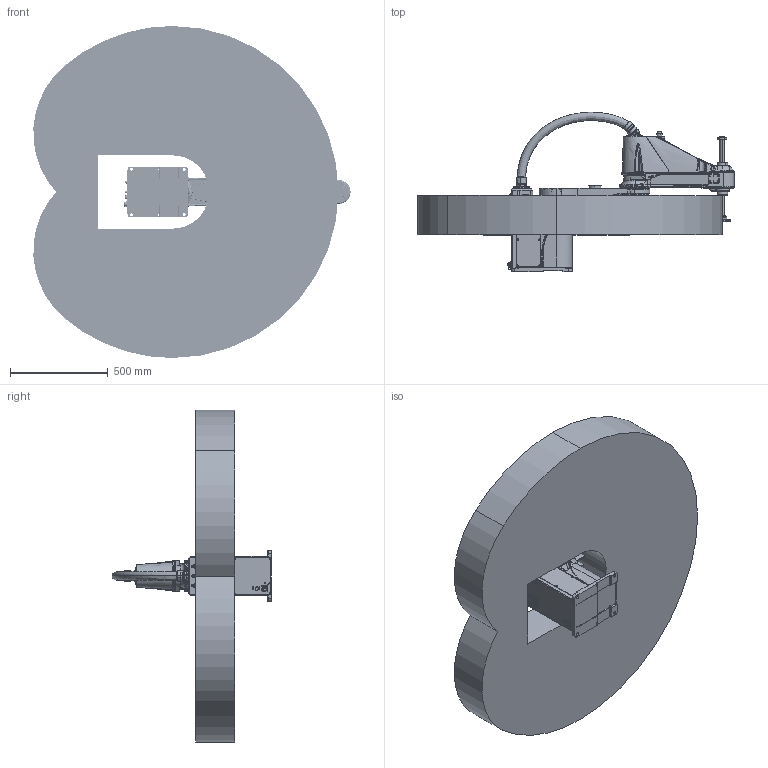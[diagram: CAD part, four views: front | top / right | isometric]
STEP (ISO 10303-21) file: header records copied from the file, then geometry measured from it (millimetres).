
FILE_DESCRIPTION (( 'STEP AP203' ), '1' );
FILE_NAME ('AH20-0850-0204-2000-V1.0.0.STEP', '2022-06-02T07:26:51', ( '' ), ( '' ), 'SwSTEP 2.0', 'SolidWorks 2017', '' );
FILE_SCHEMA (( 'CONFIG_CONTROL_DESIGN' ));
Products named in the file (7): AH20-0850-0204-2000-T4-V1.0.0; AH20-0850-0204-2000-T5-V1.0.0; AH20-0850-0204-2000-T6-V1.0.0; AH20-0850-0204-2000-V1.0.0; AH20-0850-0204-2000-T1-V1.0.0; AH20-0850-0204-2000-T2-V1.0.0; AH20-0850-0204-2000-T3-V1.0.0
Assembly tree (6 placements, depth 2):
  AH20-0850-0204-2000-V1.0.0
    AH20-0850-0204-2000-T1-V1.0.0
    AH20-0850-0204-2000-T2-V1.0.0
    AH20-0850-0204-2000-T3-V1.0.0
    AH20-0850-0204-2000-T4-V1.0.0
    AH20-0850-0204-2000-T5-V1.0.0
    AH20-0850-0204-2000-T6-V1.0.0
Bounding box: 1623.8 x 817.94 x 1700 mm (x, y, z)
Volume: 407383481.7 mm3; surface area: 7261166.2 mm2
Topology: 13 solids, 91 shells, 6670 faces, 17356 edges, 11072 vertices
Faces by surface type: plane 2684, cylinder 1625, bspline 1116, cone 840, torus 322, sphere 83
Entity records: 302450 total; most frequent: CARTESIAN_POINT 147502, ORIENTED_EDGE 33631, DIRECTION 29133, EDGE_CURVE 17172, VERTEX_POINT 11050, AXIS2_PLACEMENT_3D 10440, LINE 8253, VECTOR 8253
